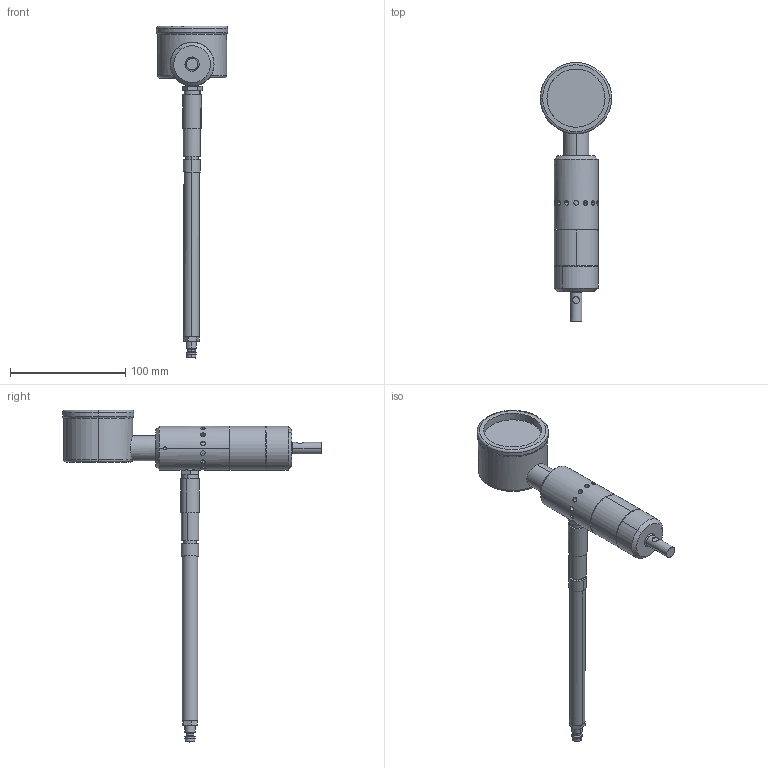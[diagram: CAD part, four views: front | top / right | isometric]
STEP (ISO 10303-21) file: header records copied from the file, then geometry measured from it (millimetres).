
FILE_DESCRIPTION (( 'STEP AP214' ), '1' );
FILE_NAME ('PLR10T.STEP', '2019-03-12T07:30:24', ( '' ), ( '' ), 'SwSTEP 2.0', 'SolidWorks 2018', '' );
FILE_SCHEMA (( 'AUTOMOTIVE_DESIGN' ));
Length unit declared in the file: millimetre
Products named in the file (12): Halterohr; Kopie von Tacho^PLR10T; Kopie von Distanzring PLR 11^PLR10T; Kopie von Verschluss PLR 11^PLR10T; Kopie von Deckel PLR 11^PLR10T; Kopie von Stator PLR 11^PLR10T; Kopie von Rotor PLR 11^PLR10T; Kopie von Motorblock PLR 11^PLR10T; PLR10T; Halterohr Standart; Rändelschraube; Schnellkupplung
Assembly tree (11 placements, depth 3):
  PLR10T
    Kopie von Motorblock PLR 11^PLR10T
    Kopie von Rotor PLR 11^PLR10T
    Kopie von Stator PLR 11^PLR10T
    Kopie von Deckel PLR 11^PLR10T
    Kopie von Verschluss PLR 11^PLR10T
    Kopie von Distanzring PLR 11^PLR10T
    Kopie von Tacho^PLR10T
    Halterohr Standart
      Halterohr
      Schnellkupplung
      Rändelschraube
Bounding box: 62.02 x 225 x 288.42 mm (x, y, z)
Volume: 225511.5 mm3; surface area: 92152 mm2
Topology: 10 solids, 10 shells, 241 faces, 514 edges, 317 vertices
Faces by surface type: cylinder 142, plane 71, cone 18, torus 9, bspline 1
Entity records: 8370 total; most frequent: CARTESIAN_POINT 2361, DIRECTION 1197, ORIENTED_EDGE 1024, EDGE_CURVE 512, AXIS2_PLACEMENT_3D 501, VERTEX_POINT 317, EDGE_LOOP 303, CIRCLE 246
